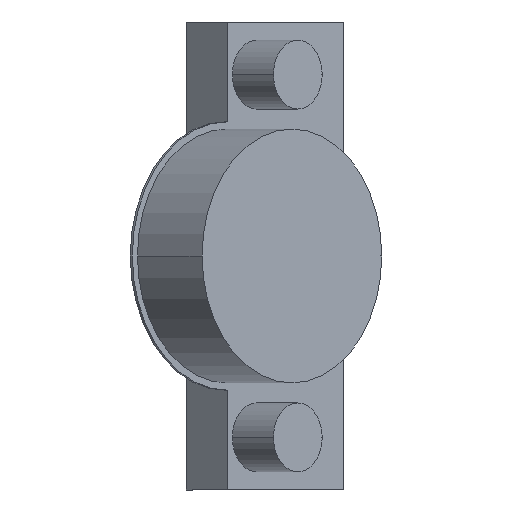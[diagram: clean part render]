
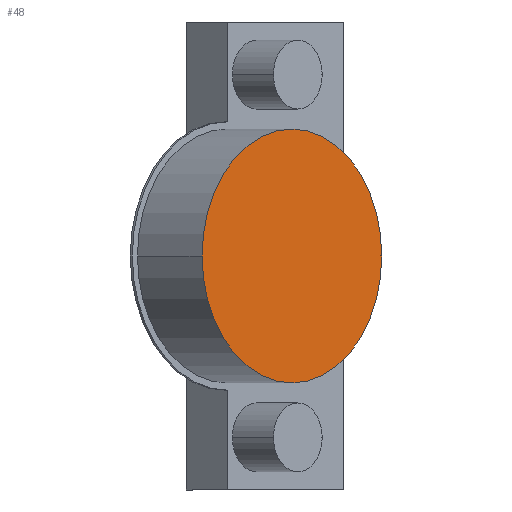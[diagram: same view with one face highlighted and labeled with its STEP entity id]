
A CAD part, front view. The second image highlights one B-rep face of the part: STEP entity #48.
In plain terms, the highlighted planar face has unit normal (0.707, -0.707, 0).
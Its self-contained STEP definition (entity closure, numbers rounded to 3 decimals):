
#1 = CARTESIAN_POINT ( 'NONE',  ( 18.46, -8.91, 0. ) ) ;
#48 = ADVANCED_FACE ( 'NONE', ( #369 ), #1472, .T. ) ;
#257 = CIRCLE ( 'NONE', #1185, 17.5 ) ;
#309 = CIRCLE ( 'NONE', #1177, 17.5 ) ;
#369 = FACE_OUTER_BOUND ( 'NONE', #500, .T. ) ;
#500 = EDGE_LOOP ( 'NONE', ( #588, #590 ) ) ;
#588 = ORIENTED_EDGE ( 'NONE', *, *, #1015, .T. ) ;
#590 = ORIENTED_EDGE ( 'NONE', *, *, #985, .T. ) ;
#652 = DIRECTION ( 'NONE',  ( 0.707, -0.707, 0. ) ) ;
#653 = DIRECTION ( 'NONE',  ( 0.707, 0.707, 0. ) ) ;
#845 = CARTESIAN_POINT ( 'NONE',  ( 30.834, 3.465, 0. ) ) ;
#860 = CARTESIAN_POINT ( 'NONE',  ( 6.085, -21.284, 0. ) ) ;
#985 = EDGE_CURVE ( 'NONE', #1216, #1221, #309, .T. ) ;
#1015 = EDGE_CURVE ( 'NONE', #1221, #1216, #257, .T. ) ;
#1150 = AXIS2_PLACEMENT_3D ( 'NONE', #1471, #1474, #1475 ) ;
#1177 = AXIS2_PLACEMENT_3D ( 'NONE', #1574, #1576, #1577 ) ;
#1185 = AXIS2_PLACEMENT_3D ( 'NONE', #1, #652, #653 ) ;
#1216 = VERTEX_POINT ( 'NONE', #845 ) ;
#1221 = VERTEX_POINT ( 'NONE', #860 ) ;
#1471 = CARTESIAN_POINT ( 'NONE',  ( 18.46, -8.91, 0. ) ) ;
#1472 = PLANE ( 'NONE',  #1150 ) ;
#1474 = DIRECTION ( 'NONE',  ( 0.707, -0.707, 0. ) ) ;
#1475 = DIRECTION ( 'NONE',  ( 0.707, 0.707, 0. ) ) ;
#1574 = CARTESIAN_POINT ( 'NONE',  ( 18.46, -8.91, 0. ) ) ;
#1576 = DIRECTION ( 'NONE',  ( 0.707, -0.707, 0. ) ) ;
#1577 = DIRECTION ( 'NONE',  ( 0.707, 0.707, 0. ) ) ;
